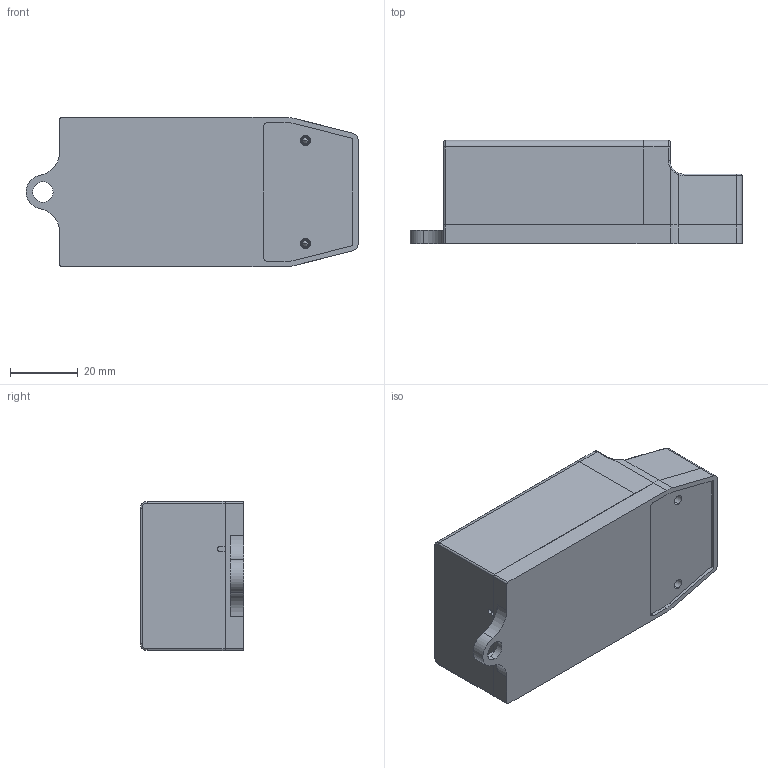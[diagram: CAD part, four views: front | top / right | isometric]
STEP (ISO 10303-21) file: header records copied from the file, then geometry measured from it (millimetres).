
FILE_DESCRIPTION (( 'STEP AP203' ), '1' );
FILE_NAME ('240V Kinetic Receiver - Assembly.STEP', '2023-08-31T15:18:55', ( '' ), ( '' ), 'SwSTEP 2.0', 'SolidWorks 2020', '' );
FILE_SCHEMA (( 'CONFIG_CONTROL_DESIGN' ));
Length unit declared in the file: millimetre
Products named in the file (4): 240V Kinetic Receiver - Cover; 240V Kinetic Receiver - Assembly; 240V Kinetic Receiver - Main Body; Pozi Pan Ø2mm x 8mm
Assembly tree (4 placements, depth 2):
  240V Kinetic Receiver - Assembly
    240V Kinetic Receiver - Main Body
    240V Kinetic Receiver - Cover
    Pozi Pan Ø2mm x 8mm  x2
Bounding box: 98 x 30.5 x 44 mm (x, y, z)
Volume: 87401.9 mm3; surface area: 29247.3 mm2
Topology: 6 solids, 6 shells, 479 faces, 1300 edges, 852 vertices
Faces by surface type: plane 230, cylinder 203, cone 16, torus 16, bspline 10, sphere 4
Entity records: 16090 total; most frequent: CARTESIAN_POINT 5301, ORIENTED_EDGE 2216, DIRECTION 2149, EDGE_CURVE 1108, AXIS2_PLACEMENT_3D 731, VERTEX_POINT 729, VECTOR 687, LINE 687
